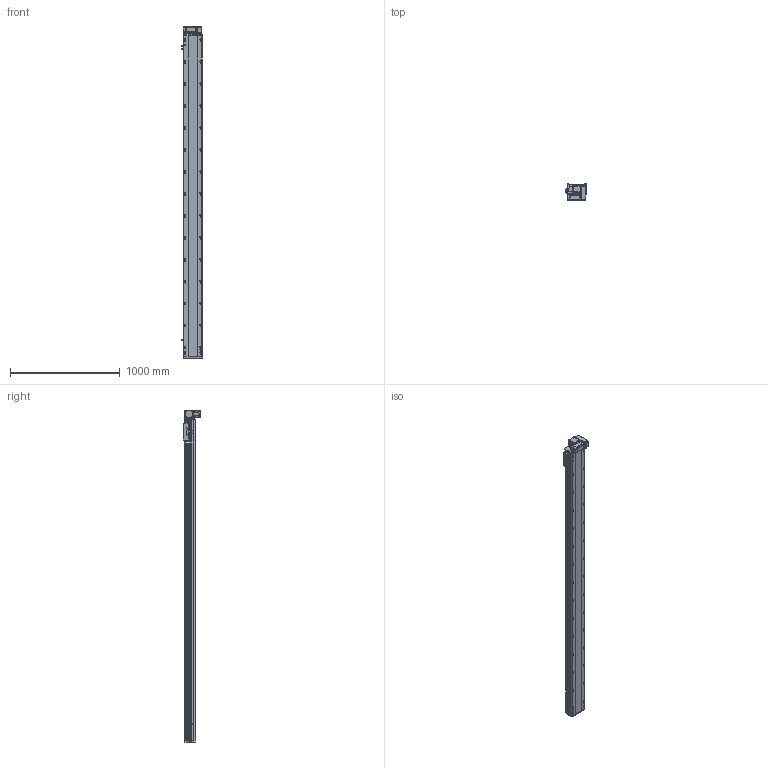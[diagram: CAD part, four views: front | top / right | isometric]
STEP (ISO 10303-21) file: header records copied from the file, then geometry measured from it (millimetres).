
FILE_DESCRIPTION (( 'STEP AP214' ), '1' );
FILE_NAME ('RTB17S-XX-2650-RM-M40-C4.STEP', '2025-12-11T08:32:33', ( '' ), ( '' ), 'SwSTEP 2.0', 'SolidWorks 2018', '' );
FILE_SCHEMA (( 'AUTOMOTIVE_DESIGN' ));
Length unit declared in the file: millimetre
Products named in the file (14): RTB14-L-008-M20--萇儂啣^RTB17S-RM-々湍釱蚾饜-400W_RTB17S-XX-XX-RM-M40-C4; RTB14-L-005P--轴承塑胶压盖^RTB17S-RM-皮带座装配-400W_RTB17S-XX-XX-RM-M40-C4; RTB14-L-017P^RTB17S-RM-々湍釱蚾饜-400W_RTB17S-XX-XX-RM-M40-C4; 400W侜督萇儂^RTB17S-XX-XX-RM-M40-C4; RTH13-BL-012覜茼え俋离^RTB17S-XX-XX-RM-M40-C4; OMRON EE-SX672 传感器^RTB17S-XX-XX-RM-M40-C4; RTB17S-RM-々湍釱蚾饜-400W^RTB17S-XX-XX-RM-M40-C4; RTB17S-L-004佪裝蹟譫蟀諉釱^RTB17S-XX-XX-RM-M40-C4; RTB17S-L-007奻裔^RTB17S-XX-XX-RM-M40-C4; RTB17S-L-014-T20--々湍釱^RTB17S-RM-々湍釱蚾饜-400W_RTB17S-XX-XX-RM-M40-C4; RTB17-R-011菁釱^RTB17S-XX-XX-RM-M40-C4; RTB17S-L-001耜醱啣^RTB17S-XX-XX-RM-M40-C4; RTB14-L-018P^RTB17S-RM-々湍釱蚾饜-400W_RTB17S-XX-XX-RM-M40-C4; RTB17S-XX-2650-RM-M40-C4
Assembly tree (16 placements, depth 3):
  RTB17S-XX-2650-RM-M40-C4
    RTB17-R-011菁釱^RTB17S-XX-XX-RM-M40-C4
    RTB17S-L-007奻裔^RTB17S-XX-XX-RM-M40-C4
    OMRON EE-SX672 传感器^RTB17S-XX-XX-RM-M40-C4  x3
    RTB17S-L-001耜醱啣^RTB17S-XX-XX-RM-M40-C4
    400W侜督萇儂^RTB17S-XX-XX-RM-M40-C4
    RTB17S-L-004佪裝蹟譫蟀諉釱^RTB17S-XX-XX-RM-M40-C4
    RTH13-BL-012覜茼え俋离^RTB17S-XX-XX-RM-M40-C4
    RTB17S-RM-々湍釱蚾饜-400W^RTB17S-XX-XX-RM-M40-C4
      RTB17S-L-014-T20--々湍釱^RTB17S-RM-々湍釱蚾饜-400W_RTB17S-XX-XX-RM-M40-C4
      RTB14-L-005P--轴承塑胶压盖^RTB17S-RM-皮带座装配-400W_RTB17S-XX-XX-RM-M40-C4
      RTB14-L-008-M20--萇儂啣^RTB17S-RM-々湍釱蚾饜-400W_RTB17S-XX-XX-RM-M40-C4
      RTB14-L-017P^RTB17S-RM-々湍釱蚾饜-400W_RTB17S-XX-XX-RM-M40-C4  x2
      RTB14-L-018P^RTB17S-RM-々湍釱蚾饜-400W_RTB17S-XX-XX-RM-M40-C4
Bounding box: 183.5 x 156.5 x 3022.5 mm (x, y, z)
Volume: 25824716.2 mm3; surface area: 2967194.2 mm2
Topology: 15 solids, 15 shells, 2349 faces, 6573 edges, 4293 vertices
Faces by surface type: plane 1086, cylinder 815, bspline 301, cone 139, torus 8
Entity records: 69545 total; most frequent: CARTESIAN_POINT 19778, ORIENTED_EDGE 9990, DIRECTION 9206, EDGE_CURVE 4995, VERTEX_POINT 3281, AXIS2_PLACEMENT_3D 3211, VECTOR 2784, LINE 2784
